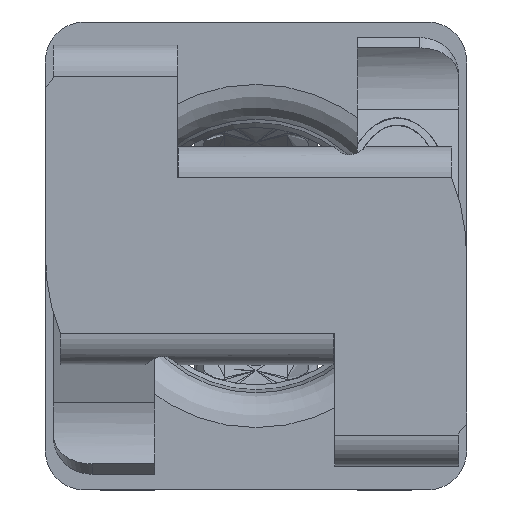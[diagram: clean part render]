
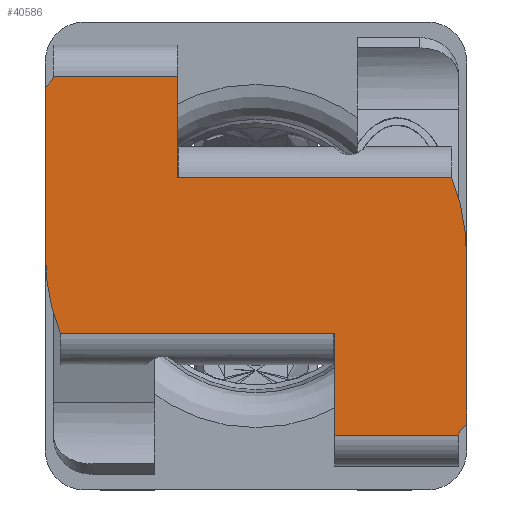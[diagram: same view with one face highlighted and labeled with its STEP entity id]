
A CAD part, top view. The second image highlights one B-rep face of the part: STEP entity #40586.
In plain terms, the highlighted planar face has unit normal (0, 0, 1).
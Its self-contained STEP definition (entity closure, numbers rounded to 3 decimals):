
#29571=CARTESIAN_POINT(' ',(1.01,-2.3,0.2));
#29572=VERTEX_POINT(' ',#29571);
#29586=CARTESIAN_POINT(' ',(1.01,-1.,0.2));
#29591=DIRECTION(' ',(0.,-1.,0.));
#29596=VECTOR(' ',#29591,1.);
#29601=LINE('',#29586,#29596);
#29606=CARTESIAN_POINT(' ',(1.01,-1.,0.2));
#29607=VERTEX_POINT(' ',#29606);
#29611=EDGE_CURVE(' ',#29607,#29572,#29601,.T.);
#33921=CARTESIAN_POINT(' ',(2.6,-2.3,0.2));
#33922=VERTEX_POINT(' ',#33921);
#34386=CARTESIAN_POINT(' ',(2.6,-2.3,0.2));
#34391=DIRECTION(' ',(-1.,0.,0.));
#34396=VECTOR(' ',#34391,1.);
#34401=LINE('',#34386,#34396);
#34406=EDGE_CURVE(' ',#33922,#29572,#34401,.T.);
#40036=DIRECTION(' ',(0.,0.,1.));
#40041=CARTESIAN_POINT(' ',(-2.7,-2.3,0.2));
#40046=DIRECTION(' ',(1.,0.,0.));
#40051=AXIS2_PLACEMENT_3D(' ',#40041,#40036,#40046);
#40056=PLANE('',#40051);
#40061=CARTESIAN_POINT(' ',(2.7,-2.159,0.2));
#40066=DIRECTION(' ',(0.,1.,0.));
#40071=VECTOR(' ',#40066,1.);
#40076=LINE('',#40061,#40071);
#40081=CARTESIAN_POINT(' ',(2.7,-2.159,0.2));
#40082=VERTEX_POINT(' ',#40081);
#40086=CARTESIAN_POINT(' ',(2.7,0.,0.2));
#40087=VERTEX_POINT(' ',#40086);
#40091=EDGE_CURVE(' ',#40082,#40087,#40076,.T.);
#40096=ORIENTED_EDGE(' ',*,*,#40091,.T.);
#40101=CARTESIAN_POINT(' ',(0.,0.,0.2));
#40106=DIRECTION(' ',(0.,0.,1.));
#40111=DIRECTION(' ',(1.,0.,0.));
#40116=AXIS2_PLACEMENT_3D(' ',#40101,#40106,#40111);
#40121=CIRCLE('',#40116,2.7);
#40126=CARTESIAN_POINT(' ',(2.508,1.,0.2));
#40127=VERTEX_POINT(' ',#40126);
#40131=EDGE_CURVE(' ',#40087,#40127,#40121,.T.);
#40136=ORIENTED_EDGE(' ',*,*,#40131,.T.);
#40141=CARTESIAN_POINT(' ',(-1.,1.,0.2));
#40146=DIRECTION(' ',(1.,0.,0.));
#40151=VECTOR(' ',#40146,1.);
#40156=LINE('',#40141,#40151);
#40161=CARTESIAN_POINT(' ',(-1.,1.,0.2));
#40162=VERTEX_POINT(' ',#40161);
#40166=EDGE_CURVE(' ',#40162,#40127,#40156,.T.);
#40171=ORIENTED_EDGE(' ',*,*,#40166,.F.);
#40176=CARTESIAN_POINT(' ',(-1.01,1.,0.2));
#40181=DIRECTION(' ',(1.,0.,0.));
#40186=VECTOR(' ',#40181,1.);
#40191=LINE('',#40176,#40186);
#40196=CARTESIAN_POINT(' ',(-1.01,1.,0.2));
#40197=VERTEX_POINT(' ',#40196);
#40201=EDGE_CURVE(' ',#40197,#40162,#40191,.T.);
#40206=ORIENTED_EDGE(' ',*,*,#40201,.F.);
#40211=CARTESIAN_POINT(' ',(-1.01,1.,0.2));
#40216=DIRECTION(' ',(0.,1.,0.));
#40221=VECTOR(' ',#40216,1.);
#40226=LINE('',#40211,#40221);
#40231=CARTESIAN_POINT(' ',(-1.01,2.3,0.2));
#40232=VERTEX_POINT(' ',#40231);
#40236=EDGE_CURVE(' ',#40197,#40232,#40226,.T.);
#40241=ORIENTED_EDGE(' ',*,*,#40236,.T.);
#40246=CARTESIAN_POINT(' ',(-2.6,2.3,0.2));
#40251=DIRECTION(' ',(1.,0.,0.));
#40256=VECTOR(' ',#40251,1.);
#40261=LINE('',#40246,#40256);
#40266=CARTESIAN_POINT(' ',(-2.6,2.3,0.2));
#40267=VERTEX_POINT(' ',#40266);
#40271=EDGE_CURVE(' ',#40267,#40232,#40261,.T.);
#40276=ORIENTED_EDGE(' ',*,*,#40271,.F.);
#40281=CARTESIAN_POINT(' ',(-2.7,2.3,0.2));
#40286=DIRECTION(' ',(0.,0.,-1.));
#40291=DIRECTION(' ',(1.,0.,0.));
#40296=AXIS2_PLACEMENT_3D(' ',#40281,#40286,#40291);
#40301=CIRCLE('',#40296,0.1);
#40306=CARTESIAN_POINT(' ',(-2.629,2.229,0.2));
#40307=VERTEX_POINT(' ',#40306);
#40311=EDGE_CURVE(' ',#40267,#40307,#40301,.T.);
#40316=ORIENTED_EDGE(' ',*,*,#40311,.T.);
#40321=CARTESIAN_POINT(' ',(-2.629,2.229,0.2));
#40326=DIRECTION(' ',(-0.707,-0.707,0.));
#40331=VECTOR(' ',#40326,1.);
#40336=LINE('',#40321,#40331);
#40341=CARTESIAN_POINT(' ',(-2.7,2.159,0.2));
#40342=VERTEX_POINT(' ',#40341);
#40346=EDGE_CURVE(' ',#40307,#40342,#40336,.T.);
#40351=ORIENTED_EDGE(' ',*,*,#40346,.T.);
#40356=CARTESIAN_POINT(' ',(-2.7,2.159,0.2));
#40361=DIRECTION(' ',(0.,-1.,0.));
#40366=VECTOR(' ',#40361,1.);
#40371=LINE('',#40356,#40366);
#40376=CARTESIAN_POINT(' ',(-2.7,0.,0.2));
#40377=VERTEX_POINT(' ',#40376);
#40381=EDGE_CURVE(' ',#40342,#40377,#40371,.T.);
#40386=ORIENTED_EDGE(' ',*,*,#40381,.T.);
#40391=CARTESIAN_POINT(' ',(0.,0.,0.2));
#40396=DIRECTION(' ',(-0.,-0.,1.));
#40401=DIRECTION(' ',(-1.,0.,0.));
#40406=AXIS2_PLACEMENT_3D(' ',#40391,#40396,#40401);
#40411=CIRCLE('',#40406,2.7);
#40416=CARTESIAN_POINT(' ',(-2.508,-1.,0.2));
#40417=VERTEX_POINT(' ',#40416);
#40421=EDGE_CURVE(' ',#40377,#40417,#40411,.T.);
#40426=ORIENTED_EDGE(' ',*,*,#40421,.T.);
#40431=CARTESIAN_POINT(' ',(-2.508,-1.,0.2));
#40436=DIRECTION(' ',(1.,0.,0.));
#40441=VECTOR(' ',#40436,1.);
#40446=LINE('',#40431,#40441);
#40451=CARTESIAN_POINT(' ',(1.,-1.,0.2));
#40452=VERTEX_POINT(' ',#40451);
#40456=EDGE_CURVE(' ',#40417,#40452,#40446,.T.);
#40461=ORIENTED_EDGE(' ',*,*,#40456,.T.);
#40466=CARTESIAN_POINT(' ',(1.,-1.,0.2));
#40471=DIRECTION(' ',(1.,0.,0.));
#40476=VECTOR(' ',#40471,1.);
#40481=LINE('',#40466,#40476);
#40486=EDGE_CURVE(' ',#40452,#29607,#40481,.T.);
#40491=ORIENTED_EDGE(' ',*,*,#40486,.T.);
#40496=ORIENTED_EDGE(' ',*,*,#29611,.T.);
#40501=ORIENTED_EDGE(' ',*,*,#34406,.F.);
#40506=CARTESIAN_POINT(' ',(2.7,-2.3,0.2));
#40511=DIRECTION(' ',(0.,0.,-1.));
#40516=DIRECTION(' ',(-1.,0.,0.));
#40521=AXIS2_PLACEMENT_3D(' ',#40506,#40511,#40516);
#40526=CIRCLE('',#40521,0.1);
#40531=CARTESIAN_POINT(' ',(2.629,-2.229,0.2));
#40532=VERTEX_POINT(' ',#40531);
#40536=EDGE_CURVE(' ',#33922,#40532,#40526,.T.);
#40541=ORIENTED_EDGE(' ',*,*,#40536,.T.);
#40546=CARTESIAN_POINT(' ',(2.629,-2.229,0.2));
#40551=DIRECTION(' ',(0.707,0.707,0.));
#40556=VECTOR(' ',#40551,1.);
#40561=LINE('',#40546,#40556);
#40566=EDGE_CURVE(' ',#40532,#40082,#40561,.T.);
#40571=ORIENTED_EDGE(' ',*,*,#40566,.T.);
#40576=EDGE_LOOP(' ',(#40096,#40136,#40171,#40206,#40241,#40276,#40316,#40351,#40386,#40426,#40461,#40491,#40496,#40501,#40541,#40571));
#40581=FACE_OUTER_BOUND(' ',#40576,.T.);
#40586=ADVANCED_FACE('',(#40581),#40056,.T.);
